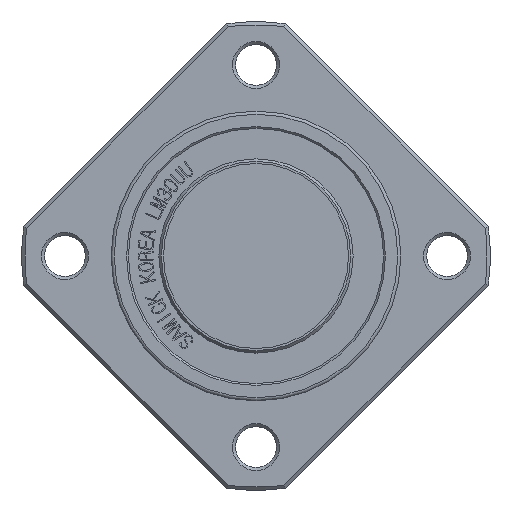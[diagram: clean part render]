
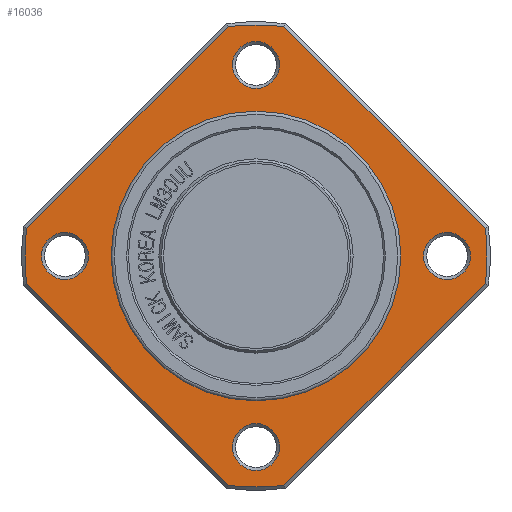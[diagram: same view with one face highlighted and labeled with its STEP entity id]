
A CAD part, front view. The second image highlights one B-rep face of the part: STEP entity #16036.
In plain terms, the highlighted planar face has unit normal (0, -1, 0).
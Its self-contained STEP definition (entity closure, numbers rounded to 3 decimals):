
#2311=FACE_BOUND('',#3510,.T.);
#2312=FACE_BOUND('',#3511,.T.);
#2313=FACE_BOUND('',#3512,.T.);
#2314=FACE_BOUND('',#3513,.T.);
#2315=FACE_BOUND('',#3514,.T.);
#2371=PLANE('',#16974);
#2614=FACE_OUTER_BOUND('',#3509,.T.);
#3509=EDGE_LOOP('',(#11076,#11077,#11078,#11079,#11080,#11081,#11082,#11083));
#3510=EDGE_LOOP('',(#11084));
#3511=EDGE_LOOP('',(#11085));
#3512=EDGE_LOOP('',(#11086,#11087));
#3513=EDGE_LOOP('',(#11088));
#3514=EDGE_LOOP('',(#11089));
#4461=LINE('',#19275,#5619);
#4462=LINE('',#19279,#5620);
#4463=LINE('',#19283,#5621);
#4464=LINE('',#19287,#5622);
#5619=VECTOR('',#17393,10.);
#5620=VECTOR('',#17396,10.);
#5621=VECTOR('',#17399,10.);
#5622=VECTOR('',#17402,10.);
#6790=CIRCLE('',#16972,3.8);
#6792=CIRCLE('',#16975,37.5);
#6793=CIRCLE('',#16976,37.5);
#6794=CIRCLE('',#16977,37.5);
#6795=CIRCLE('',#16978,37.5);
#6796=CIRCLE('',#16979,3.8);
#6797=CIRCLE('',#16980,3.8);
#6798=CIRCLE('',#16981,23.5);
#6799=CIRCLE('',#16982,23.5);
#6800=CIRCLE('',#16983,3.8);
#6884=VERTEX_POINT('',#19267);
#6886=VERTEX_POINT('',#19273);
#6887=VERTEX_POINT('',#19274);
#6888=VERTEX_POINT('',#19276);
#6889=VERTEX_POINT('',#19278);
#6890=VERTEX_POINT('',#19280);
#6891=VERTEX_POINT('',#19282);
#6892=VERTEX_POINT('',#19284);
#6893=VERTEX_POINT('',#19286);
#6894=VERTEX_POINT('',#19289);
#6895=VERTEX_POINT('',#19291);
#6896=VERTEX_POINT('',#19293);
#6897=VERTEX_POINT('',#19294);
#6898=VERTEX_POINT('',#19297);
#8556=EDGE_CURVE('',#6884,#6884,#6790,.T.);
#8559=EDGE_CURVE('',#6886,#6887,#4461,.T.);
#8560=EDGE_CURVE('',#6886,#6888,#6792,.T.);
#8561=EDGE_CURVE('',#6889,#6888,#4462,.T.);
#8562=EDGE_CURVE('',#6889,#6890,#6793,.T.);
#8563=EDGE_CURVE('',#6891,#6890,#4463,.T.);
#8564=EDGE_CURVE('',#6891,#6892,#6794,.T.);
#8565=EDGE_CURVE('',#6893,#6892,#4464,.T.);
#8566=EDGE_CURVE('',#6893,#6887,#6795,.T.);
#8567=EDGE_CURVE('',#6894,#6894,#6796,.T.);
#8568=EDGE_CURVE('',#6895,#6895,#6797,.T.);
#8569=EDGE_CURVE('',#6896,#6897,#6798,.T.);
#8570=EDGE_CURVE('',#6897,#6896,#6799,.T.);
#8571=EDGE_CURVE('',#6898,#6898,#6800,.T.);
#11076=ORIENTED_EDGE('',*,*,#8559,.F.);
#11077=ORIENTED_EDGE('',*,*,#8560,.T.);
#11078=ORIENTED_EDGE('',*,*,#8561,.F.);
#11079=ORIENTED_EDGE('',*,*,#8562,.T.);
#11080=ORIENTED_EDGE('',*,*,#8563,.F.);
#11081=ORIENTED_EDGE('',*,*,#8564,.T.);
#11082=ORIENTED_EDGE('',*,*,#8565,.F.);
#11083=ORIENTED_EDGE('',*,*,#8566,.T.);
#11084=ORIENTED_EDGE('',*,*,#8567,.F.);
#11085=ORIENTED_EDGE('',*,*,#8568,.F.);
#11086=ORIENTED_EDGE('',*,*,#8569,.F.);
#11087=ORIENTED_EDGE('',*,*,#8570,.F.);
#11088=ORIENTED_EDGE('',*,*,#8571,.F.);
#11089=ORIENTED_EDGE('',*,*,#8556,.F.);
#16036=ADVANCED_FACE('',(#2614,#2311,#2312,#2313,#2314,#2315),#2371,.T.);
#16972=AXIS2_PLACEMENT_3D('',#19268,#17386,#17387);
#16974=AXIS2_PLACEMENT_3D('',#19272,#17391,#17392);
#16975=AXIS2_PLACEMENT_3D('',#19277,#17394,#17395);
#16976=AXIS2_PLACEMENT_3D('',#19281,#17397,#17398);
#16977=AXIS2_PLACEMENT_3D('',#19285,#17400,#17401);
#16978=AXIS2_PLACEMENT_3D('',#19288,#17403,#17404);
#16979=AXIS2_PLACEMENT_3D('',#19290,#17405,#17406);
#16980=AXIS2_PLACEMENT_3D('',#19292,#17407,#17408);
#16981=AXIS2_PLACEMENT_3D('',#19295,#17409,#17410);
#16982=AXIS2_PLACEMENT_3D('',#19296,#17411,#17412);
#16983=AXIS2_PLACEMENT_3D('',#19298,#17413,#17414);
#17386=DIRECTION('center_axis',(0.,-1.,0.));
#17387=DIRECTION('ref_axis',(-1.,0.,0.));
#17391=DIRECTION('center_axis',(0.,-1.,0.));
#17392=DIRECTION('ref_axis',(0.,0.,-1.));
#17393=DIRECTION('',(-0.707,0.,0.707));
#17394=DIRECTION('center_axis',(0.,-1.,0.));
#17395=DIRECTION('ref_axis',(1.,0.,0.));
#17396=DIRECTION('',(-0.707,0.,-0.707));
#17397=DIRECTION('center_axis',(0.,-1.,0.));
#17398=DIRECTION('ref_axis',(1.,0.,0.));
#17399=DIRECTION('',(0.707,0.,-0.707));
#17400=DIRECTION('center_axis',(0.,-1.,0.));
#17401=DIRECTION('ref_axis',(1.,0.,0.));
#17402=DIRECTION('',(0.707,0.,0.707));
#17403=DIRECTION('center_axis',(0.,-1.,0.));
#17404=DIRECTION('ref_axis',(1.,0.,0.));
#17405=DIRECTION('center_axis',(0.,-1.,0.));
#17406=DIRECTION('ref_axis',(0.,0.,-1.));
#17407=DIRECTION('center_axis',(0.,-1.,0.));
#17408=DIRECTION('ref_axis',(0.,0.,
1.));
#17409=DIRECTION('center_axis',(0.,-1.,0.));
#17410=DIRECTION('ref_axis',(1.,0.,0.));
#17411=DIRECTION('center_axis',(0.,-1.,0.));
#17412=DIRECTION('ref_axis',(1.,0.,0.));
#17413=DIRECTION('center_axis',(0.,-1.,0.));
#17414=DIRECTION('ref_axis',(1.,0.,0.));
#19267=CARTESIAN_POINT('',(-27.2,14.,0.));
#19268=CARTESIAN_POINT('Origin',(-31.,14.,0.));
#19272=CARTESIAN_POINT('Origin',(23.5,14.,0.));
#19273=CARTESIAN_POINT('',(-4.489,14.,-37.23));
#19274=CARTESIAN_POINT('',(-37.23,14.,-4.489));
#19275=CARTESIAN_POINT('',(-4.378,14.,-37.341));
#19276=CARTESIAN_POINT('',(4.489,14.,-37.23));
#19277=CARTESIAN_POINT('Origin',(0.,14.,0.));
#19278=CARTESIAN_POINT('',(37.23,14.,-4.489));
#19279=CARTESIAN_POINT('',(37.341,14.,-4.378));
#19280=CARTESIAN_POINT('',(37.23,14.,4.489));
#19281=CARTESIAN_POINT('Origin',(0.,14.,0.));
#19282=CARTESIAN_POINT('',(4.489,14.,37.23));
#19283=CARTESIAN_POINT('',(16.128,14.,25.591));
#19284=CARTESIAN_POINT('',(-4.489,14.,37.23));
#19285=CARTESIAN_POINT('Origin',(0.,14.,0.));
#19286=CARTESIAN_POINT('',(-37.23,14.,4.489));
#19287=CARTESIAN_POINT('',(-25.591,14.,16.128));
#19288=CARTESIAN_POINT('Origin',(0.,14.,0.));
#19289=CARTESIAN_POINT('',(0.,14.,-27.2));
#19290=CARTESIAN_POINT('Origin',(0.,14.,-31.));
#19291=CARTESIAN_POINT('',(0.,14.,27.2));
#19292=CARTESIAN_POINT('Origin',(0.,14.,31.));
#19293=CARTESIAN_POINT('',(23.5,14.,0.));
#19294=CARTESIAN_POINT('',(-23.5,14.,0.));
#19295=CARTESIAN_POINT('Origin',(0.,14.,0.));
#19296=CARTESIAN_POINT('Origin',(0.,14.,0.));
#19297=CARTESIAN_POINT('',(27.2,14.,0.));
#19298=CARTESIAN_POINT('Origin',(31.,14.,0.));
